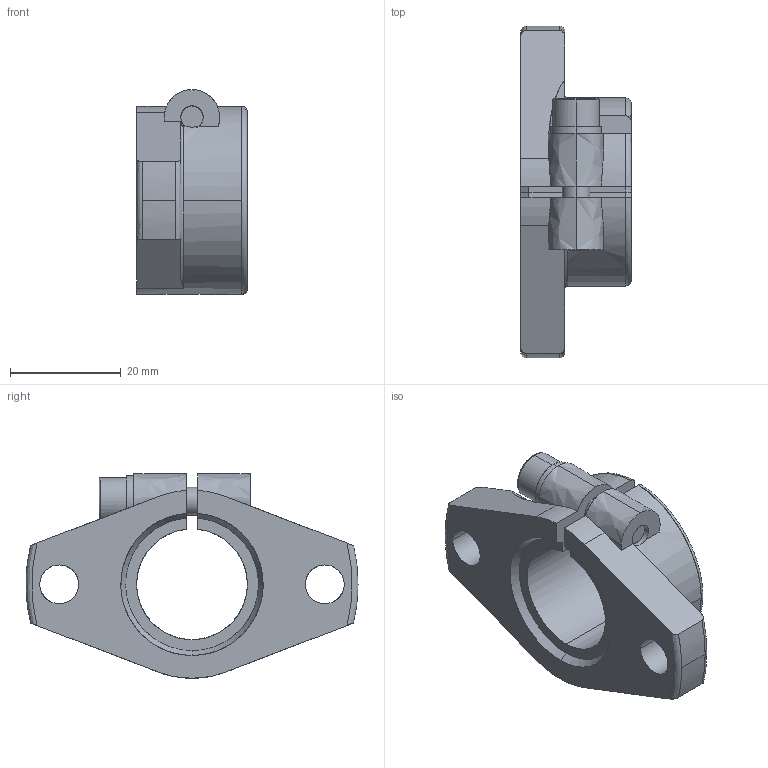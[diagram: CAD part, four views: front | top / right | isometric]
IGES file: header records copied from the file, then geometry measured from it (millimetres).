
Global section: file name: No Iges File Name specified; native system: AutoDesk Inventor R10; preprocessor: AutoDesk Inventor Iges Exporter R10; author: No Author specified; organization: No Organization specified; date: 20101214.153533; units: millimetre
Bounding box: 20 x 60 x 37 mm (x, y, z)
Surface area: 7071.3 mm2 (no closed solid volume)
Topology: 0 solids, 0 shells, 76 faces, 686 edges, 684 vertices
Faces by surface type: bspline 76
